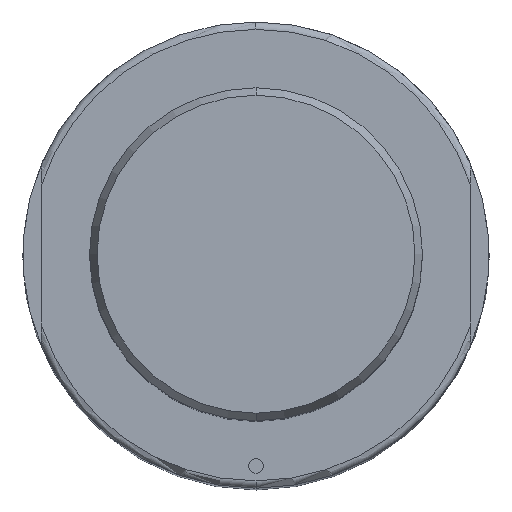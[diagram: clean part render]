
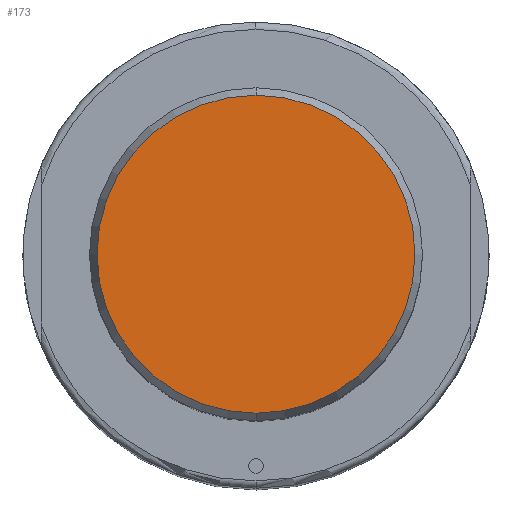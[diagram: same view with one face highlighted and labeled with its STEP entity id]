
A CAD part, top view. The second image highlights one B-rep face of the part: STEP entity #173.
In plain terms, the highlighted planar face has unit normal (0, 0, 1).
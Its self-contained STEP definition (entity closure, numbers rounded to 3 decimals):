
#124=PLANE('',#990);
#173=ADVANCED_FACE('',(#244),#124,.T.);
#244=FACE_OUTER_BOUND('',#297,.T.);
#297=EDGE_LOOP('',(#457,#458));
#364=CIRCLE('',#975,21.481);
#365=CIRCLE('',#977,21.481);
#457=ORIENTED_EDGE('',*,*,#758,.F.);
#458=ORIENTED_EDGE('',*,*,#759,.F.);
#677=VERTEX_POINT('',#1413);
#680=VERTEX_POINT('',#1418);
#758=EDGE_CURVE('',#680,#677,#364,.T.);
#759=EDGE_CURVE('',#677,#680,#365,.T.);
#975=AXIS2_PLACEMENT_3D('',#1419,#1109,#1110);
#977=AXIS2_PLACEMENT_3D('',#1421,#1113,#1114);
#990=AXIS2_PLACEMENT_3D('',#1444,#1143,#1144);
#1109=DIRECTION('',(0.,0.,-1.));
#1110=DIRECTION('',(-1.,0.,0.));
#1113=DIRECTION('',(0.,0.,-1.));
#1114=DIRECTION('',(1.,0.,0.));
#1143=DIRECTION('',(0.,0.,1.));
#1144=DIRECTION('',(0.,-1.,0.));
#1413=CARTESIAN_POINT('',(0.,-21.481,205.));
#1418=CARTESIAN_POINT('',(0.,21.481,205.));
#1419=CARTESIAN_POINT('',(0.,0.,205.));
#1421=CARTESIAN_POINT('',(0.,0.,205.));
#1444=CARTESIAN_POINT('',(0.,0.,205.));
